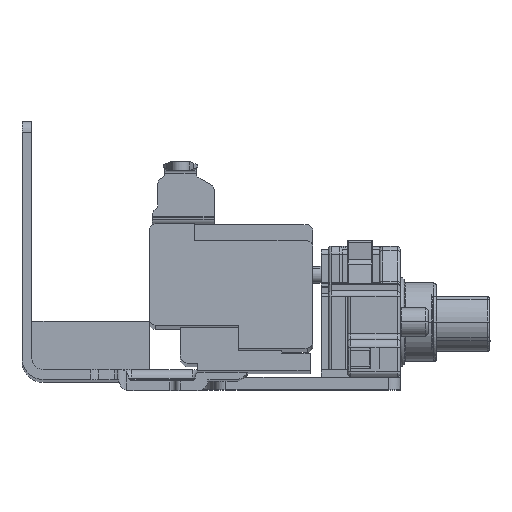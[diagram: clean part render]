
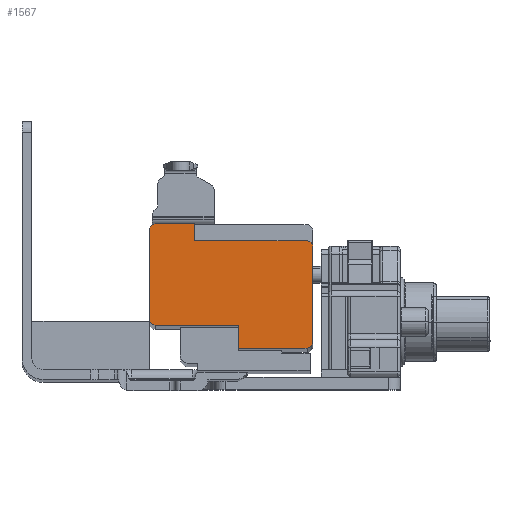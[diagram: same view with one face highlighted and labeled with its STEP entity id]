
A CAD part, top view. The second image highlights one B-rep face of the part: STEP entity #1567.
In plain terms, the highlighted planar face has unit normal (0, 0, 1).
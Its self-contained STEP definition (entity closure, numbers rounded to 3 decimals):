
#210 = CARTESIAN_POINT ( 'NONE',  ( 31.58, -17.1, 394.3 ) ) ;
#638 = DIRECTION ( 'NONE',  ( -1., 0., 0. ) ) ;
#736 = CARTESIAN_POINT ( 'NONE',  ( 0.75, 1., 394.3 ) ) ;
#766 = VERTEX_POINT ( 'NONE', #13416 ) ;
#949 = CIRCLE ( 'NONE', #3739, 1. ) ;
#957 = VECTOR ( 'NONE', #3842, 1000. ) ;
#1083 = VERTEX_POINT ( 'NONE', #210 ) ;
#1187 = VECTOR ( 'NONE', #14768, 1000. ) ;
#1380 = LINE ( 'NONE', #17895, #957 ) ;
#1567 = ADVANCED_FACE ( 'NONE', ( #9961 ), #9190, .T. ) ;
#1717 = DIRECTION ( 'NONE',  ( 0., 0., 1. ) ) ;
#1954 = CARTESIAN_POINT ( 'NONE',  ( 30.61, 1., 394.3 ) ) ;
#2185 = CARTESIAN_POINT ( 'NONE',  ( 3.55, -13., 394.3 ) ) ;
#2291 = ORIENTED_EDGE ( 'NONE', *, *, #12882, .T. ) ;
#2913 = ORIENTED_EDGE ( 'NONE', *, *, #3036, .T. ) ;
#2973 = VECTOR ( 'NONE', #6845, 1000. ) ;
#3036 = EDGE_CURVE ( 'NONE', #15730, #11321, #17790, .T. ) ;
#3288 = AXIS2_PLACEMENT_3D ( 'NONE', #6411, #16216, #7820 ) ;
#3551 = CARTESIAN_POINT ( 'NONE',  ( 10.55, 1., 394.3 ) ) ;
#3611 = DIRECTION ( 'NONE',  ( 1., 0., 0. ) ) ;
#3679 = EDGE_CURVE ( 'NONE', #4204, #9575, #5936, .T. ) ;
#3739 = AXIS2_PLACEMENT_3D ( 'NONE', #10169, #1717, #11552 ) ;
#3842 = DIRECTION ( 'NONE',  ( 0., -1., 0. ) ) ;
#4145 = CARTESIAN_POINT ( 'NONE',  ( 10.55, 4., 394.3 ) ) ;
#4204 = VERTEX_POINT ( 'NONE', #15275 ) ;
#4382 = CARTESIAN_POINT ( 'NONE',  ( 3.55, 4., 394.3 ) ) ;
#4560 = EDGE_LOOP ( 'NONE', ( #9416, #2913, #4594, #8377, #14895, #10523, #16344, #2291, #14084, #9715, #12080, #10803 ) ) ;
#4594 = ORIENTED_EDGE ( 'NONE', *, *, #5814, .T. ) ;
#4915 = VERTEX_POINT ( 'NONE', #17975 ) ;
#4989 = CARTESIAN_POINT ( 'NONE',  ( 2.55, 0., 394.3 ) ) ;
#5191 = DIRECTION ( 'NONE',  ( 1., 0., 0. ) ) ;
#5446 = DIRECTION ( 'NONE',  ( 1., 0., 0. ) ) ;
#5588 = VECTOR ( 'NONE', #17586, 1000. ) ;
#5626 = CIRCLE ( 'NONE', #14500, 1. ) ;
#5752 = CARTESIAN_POINT ( 'NONE',  ( 3.55, 3., 394.3 ) ) ;
#5814 = EDGE_CURVE ( 'NONE', #11321, #14919, #9336, .T. ) ;
#5936 = CIRCLE ( 'NONE', #3288, 0.97 ) ;
#5946 = VECTOR ( 'NONE', #5191, 1000. ) ;
#5948 = VERTEX_POINT ( 'NONE', #8246 ) ;
#6076 = VECTOR ( 'NONE', #13347, 1000. ) ;
#6411 = CARTESIAN_POINT ( 'NONE',  ( 30.61, 0.03, 394.3 ) ) ;
#6623 = EDGE_CURVE ( 'NONE', #766, #9575, #9091, .T. ) ;
#6775 = CARTESIAN_POINT ( 'NONE',  ( 8.35, 4., 394.3 ) ) ;
#6845 = DIRECTION ( 'NONE',  ( -1., 0., 0. ) ) ;
#7152 = DIRECTION ( 'NONE',  ( 1., 0., 0. ) ) ;
#7622 = LINE ( 'NONE', #18153, #17065 ) ;
#7820 = DIRECTION ( 'NONE',  ( 1., 0., 0. ) ) ;
#8246 = CARTESIAN_POINT ( 'NONE',  ( 18.38, -14., 394.3 ) ) ;
#8377 = ORIENTED_EDGE ( 'NONE', *, *, #10269, .T. ) ;
#9070 = LINE ( 'NONE', #17452, #17412 ) ;
#9091 = LINE ( 'NONE', #736, #1187 ) ;
#9190 = PLANE ( 'NONE',  #13363 ) ;
#9285 = DIRECTION ( 'NONE',  ( 0., 0., 1. ) ) ;
#9336 = LINE ( 'NONE', #4989, #5588 ) ;
#9379 = CARTESIAN_POINT ( 'NONE',  ( 0., 0., 394.3 ) ) ;
#9387 = LINE ( 'NONE', #3551, #6076 ) ;
#9416 = ORIENTED_EDGE ( 'NONE', *, *, #10454, .T. ) ;
#9521 = VERTEX_POINT ( 'NONE', #12930 ) ;
#9575 = VERTEX_POINT ( 'NONE', #1954 ) ;
#9715 = ORIENTED_EDGE ( 'NONE', *, *, #3679, .T. ) ;
#9921 = EDGE_CURVE ( 'NONE', #5948, #9521, #7622, .T. ) ;
#9961 = FACE_OUTER_BOUND ( 'NONE', #4560, .T. ) ;
#10011 = AXIS2_PLACEMENT_3D ( 'NONE', #5752, #15564, #7152 ) ;
#10169 = CARTESIAN_POINT ( 'NONE',  ( 30.58, -17.1, 394.3 ) ) ;
#10238 = EDGE_CURVE ( 'NONE', #766, #16855, #9387, .T. ) ;
#10269 = EDGE_CURVE ( 'NONE', #14919, #17492, #5626, .T. ) ;
#10454 = EDGE_CURVE ( 'NONE', #16855, #15730, #10499, .T. ) ;
#10499 = LINE ( 'NONE', #6775, #2973 ) ;
#10523 = ORIENTED_EDGE ( 'NONE', *, *, #9921, .T. ) ;
#10803 = ORIENTED_EDGE ( 'NONE', *, *, #10238, .T. ) ;
#11321 = VERTEX_POINT ( 'NONE', #11941 ) ;
#11552 = DIRECTION ( 'NONE',  ( 1., 0., 0. ) ) ;
#11941 = CARTESIAN_POINT ( 'NONE',  ( 2.55, 3., 394.3 ) ) ;
#12021 = DIRECTION ( 'NONE',  ( 0., 0., 1. ) ) ;
#12080 = ORIENTED_EDGE ( 'NONE', *, *, #6623, .F. ) ;
#12204 = CARTESIAN_POINT ( 'NONE',  ( 0., -14., 394.3 ) ) ;
#12882 = EDGE_CURVE ( 'NONE', #4915, #1083, #949, .T. ) ;
#12930 = CARTESIAN_POINT ( 'NONE',  ( 18.38, -18.1, 394.3 ) ) ;
#13347 = DIRECTION ( 'NONE',  ( 0., 1., 0. ) ) ;
#13358 = CARTESIAN_POINT ( 'NONE',  ( 2.55, -13., 394.3 ) ) ;
#13363 = AXIS2_PLACEMENT_3D ( 'NONE', #9379, #9285, #5446 ) ;
#13416 = CARTESIAN_POINT ( 'NONE',  ( 10.55, 1., 394.3 ) ) ;
#13601 = EDGE_CURVE ( 'NONE', #17492, #5948, #13860, .T. ) ;
#13658 = EDGE_CURVE ( 'NONE', #4204, #1083, #1380, .T. ) ;
#13860 = LINE ( 'NONE', #12204, #5946 ) ;
#13908 = EDGE_CURVE ( 'NONE', #4915, #9521, #9070, .T. ) ;
#14084 = ORIENTED_EDGE ( 'NONE', *, *, #13658, .F. ) ;
#14500 = AXIS2_PLACEMENT_3D ( 'NONE', #2185, #12021, #3611 ) ;
#14656 = CARTESIAN_POINT ( 'NONE',  ( 3.55, -14., 394.3 ) ) ;
#14768 = DIRECTION ( 'NONE',  ( 1., 0., 0. ) ) ;
#14895 = ORIENTED_EDGE ( 'NONE', *, *, #13601, .T. ) ;
#14919 = VERTEX_POINT ( 'NONE', #13358 ) ;
#15275 = CARTESIAN_POINT ( 'NONE',  ( 31.58, 0.03, 394.3 ) ) ;
#15485 = DIRECTION ( 'NONE',  ( 0., -1., 0. ) ) ;
#15564 = DIRECTION ( 'NONE',  ( 0., 0., 1. ) ) ;
#15730 = VERTEX_POINT ( 'NONE', #4382 ) ;
#16216 = DIRECTION ( 'NONE',  ( 0., 0., 1. ) ) ;
#16344 = ORIENTED_EDGE ( 'NONE', *, *, #13908, .F. ) ;
#16855 = VERTEX_POINT ( 'NONE', #4145 ) ;
#17065 = VECTOR ( 'NONE', #15485, 1000. ) ;
#17412 = VECTOR ( 'NONE', #638, 1000. ) ;
#17452 = CARTESIAN_POINT ( 'NONE',  ( 0., -18.1, 394.3 ) ) ;
#17492 = VERTEX_POINT ( 'NONE', #14656 ) ;
#17586 = DIRECTION ( 'NONE',  ( 0., -1., 0. ) ) ;
#17790 = CIRCLE ( 'NONE', #10011, 1. ) ;
#17895 = CARTESIAN_POINT ( 'NONE',  ( 31.58, 0., 394.3 ) ) ;
#17975 = CARTESIAN_POINT ( 'NONE',  ( 30.58, -18.1, 394.3 ) ) ;
#18153 = CARTESIAN_POINT ( 'NONE',  ( 18.38, 0., 394.3 ) ) ;
